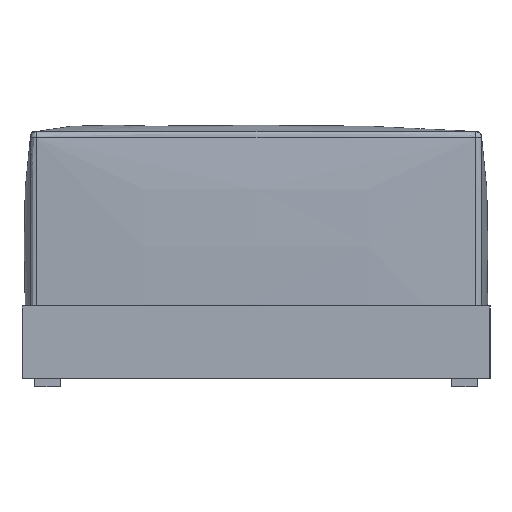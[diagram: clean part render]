
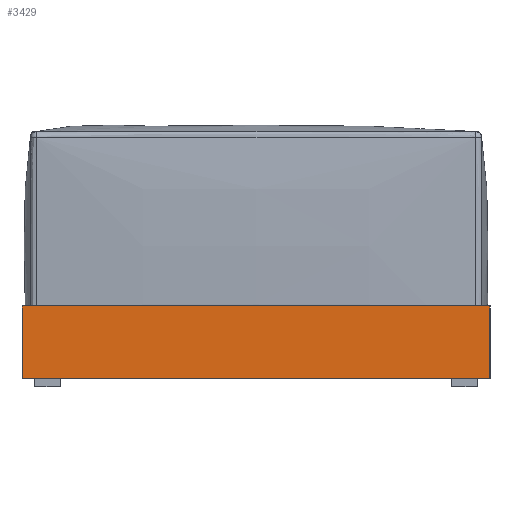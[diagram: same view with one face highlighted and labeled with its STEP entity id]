
A CAD part, left-side view. The second image highlights one B-rep face of the part: STEP entity #3429.
In plain terms, the highlighted planar face has unit normal (-1, 0, 0).
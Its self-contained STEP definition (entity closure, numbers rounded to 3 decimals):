
#121=PLANE('',#3843);
#451=LINE('',#14663,#671);
#452=LINE('',#14665,#672);
#453=LINE('',#14667,#673);
#454=LINE('',#14668,#674);
#671=VECTOR('',#4469,10.);
#672=VECTOR('',#4470,10.);
#673=VECTOR('',#4471,10.);
#674=VECTOR('',#4472,10.);
#1021=FACE_OUTER_BOUND('',#1273,.T.);
#1273=EDGE_LOOP('',(#2877,#2878,#2879,#2880));
#1661=VERTEX_POINT('',#14661);
#1662=VERTEX_POINT('',#14662);
#1663=VERTEX_POINT('',#14664);
#1664=VERTEX_POINT('',#14666);
#2085=EDGE_CURVE('',#1661,#1662,#451,.T.);
#2086=EDGE_CURVE('',#1661,#1663,#452,.T.);
#2087=EDGE_CURVE('',#1664,#1663,#453,.T.);
#2088=EDGE_CURVE('',#1662,#1664,#454,.T.);
#2877=ORIENTED_EDGE('',*,*,#2085,.F.);
#2878=ORIENTED_EDGE('',*,*,#2086,.T.);
#2879=ORIENTED_EDGE('',*,*,#2087,.F.);
#2880=ORIENTED_EDGE('',*,*,#2088,.F.);
#3429=ADVANCED_FACE('',(#1021),#121,.T.);
#3843=AXIS2_PLACEMENT_3D('',#14660,#4467,#4468);
#4467=DIRECTION('center_axis',(-1.,0.,0.));
#4468=DIRECTION('ref_axis',(0.,-1.,0.));
#4469=DIRECTION('',(0.,1.,0.));
#4470=DIRECTION('',(0.,0.,1.));
#4471=DIRECTION('',(0.,-1.,0.));
#4472=DIRECTION('',(0.,0.,1.));
#14660=CARTESIAN_POINT('Origin',(-1300.,550.,0.));
#14661=CARTESIAN_POINT('',(-1300.,-550.,0.));
#14662=CARTESIAN_POINT('',(-1300.,550.,0.));
#14663=CARTESIAN_POINT('',(-1300.,-550.,0.));
#14664=CARTESIAN_POINT('',(-1300.,-550.,170.));
#14665=CARTESIAN_POINT('',(-1300.,-550.,0.));
#14666=CARTESIAN_POINT('',(-1300.,550.,170.));
#14667=CARTESIAN_POINT('',(-1300.,-550.,170.));
#14668=CARTESIAN_POINT('',(-1300.,550.,0.));
